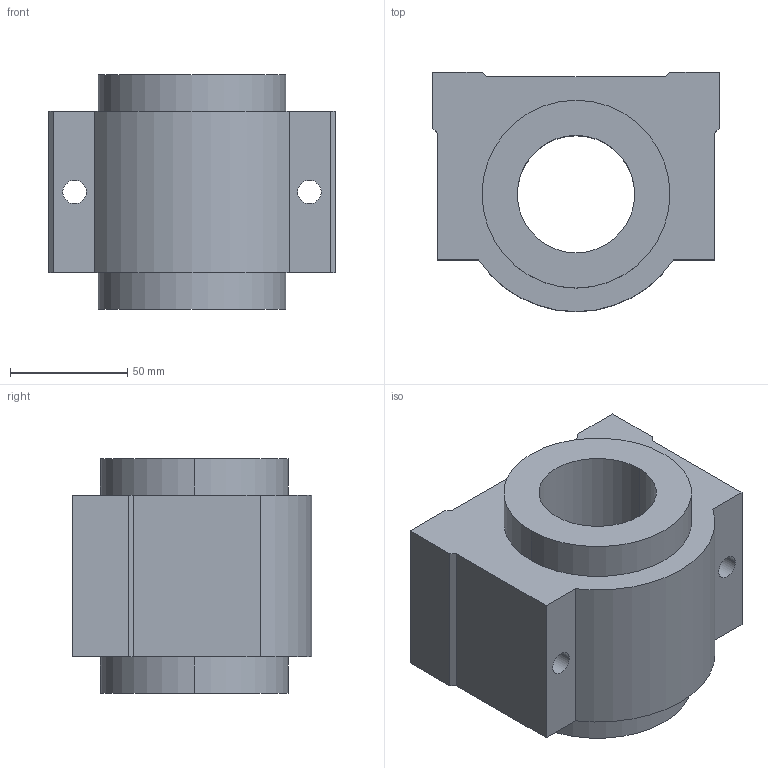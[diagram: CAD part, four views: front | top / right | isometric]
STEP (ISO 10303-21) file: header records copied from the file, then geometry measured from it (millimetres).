
FILE_DESCRIPTION((''),'2;1');
FILE_NAME('C:\Documents and Settings\ｿﾀﾀ蠑ｷ1\ｹﾙﾅﾁ ﾈｭｸ饅\ｺﾎﾇｰﾆﾄﾀﾏ\ﾁｦﾇｰ\SC__VUU\SC50VUU.stp','2005-06-22T14:25:16',('ｿﾀﾀ蠑ｷ1'),(''),'Autodesk Inventor 9','Autodesk Inventor 9','');
FILE_SCHEMA(('AUTOMOTIVE_DESIGN { 1 0 10303 214 1 1 1 1 }'));
Length unit declared in the file: millimetre
Products named in the file (1): SC__VUUN
Bounding box: 122 x 102 x 100 mm (x, y, z)
Volume: 682238.9 mm3; surface area: 74446.6 mm2
Topology: 1 solids, 1 shells, 28 faces, 72 edges, 48 vertices
Faces by surface type: plane 17, cylinder 7, bspline 4
Entity records: 945 total; most frequent: CARTESIAN_POINT 217, DIRECTION 144, ORIENTED_EDGE 144, EDGE_CURVE 72, VECTOR 50, LINE 50, VERTEX_POINT 48, AXIS2_PLACEMENT_3D 47
